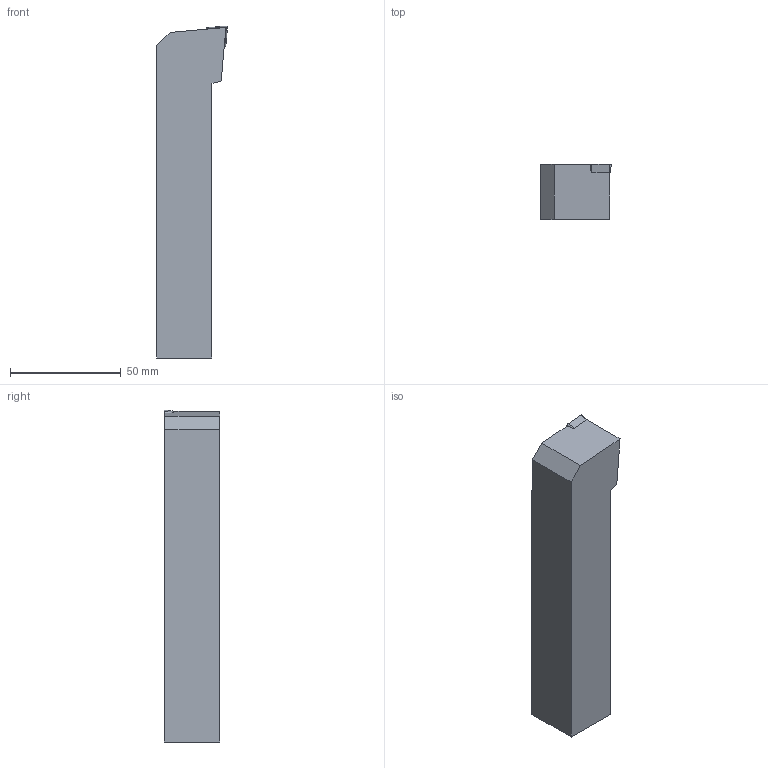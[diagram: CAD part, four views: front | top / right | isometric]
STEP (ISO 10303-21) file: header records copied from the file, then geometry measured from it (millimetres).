
FILE_DESCRIPTION(/* description */ (''),/* implementation_level */ '2;1');
FILE_NAME(/* name */ 'SCLCR2525-M09-HAAS-.stp',/* time_stamp */ '2021-09-28T12:12:12+09:00',/* author */ (''),/* organization */ (''),/* preprocessor_version */ 'ST-DEVELOPER v11',/* originating_system */ 'SIEMENS UGS NX 6.0',/* authorisation */ '');
FILE_SCHEMA (('CONFIG_CONTROL_DESIGN'));
Length unit declared in the file: millimetre
Products named in the file (1): user19614c2q
Bounding box: 31.96 x 25 x 149.95 mm (x, y, z)
Volume: 95155.5 mm3; surface area: 16736.1 mm2
Topology: 2 solids, 2 shells, 22 faces, 54 edges, 36 vertices
Faces by surface type: plane 17, cone 4, cylinder 1
Full cylindrical faces by diameter (mm): 4.4 x1
Entity records: 722 total; most frequent: CARTESIAN_POINT 110, DIRECTION 108, ORIENTED_EDGE 104, EDGE_CURVE 52, LINE 42, VECTOR 42, VERTEX_POINT 35, AXIS2_PLACEMENT_3D 33
